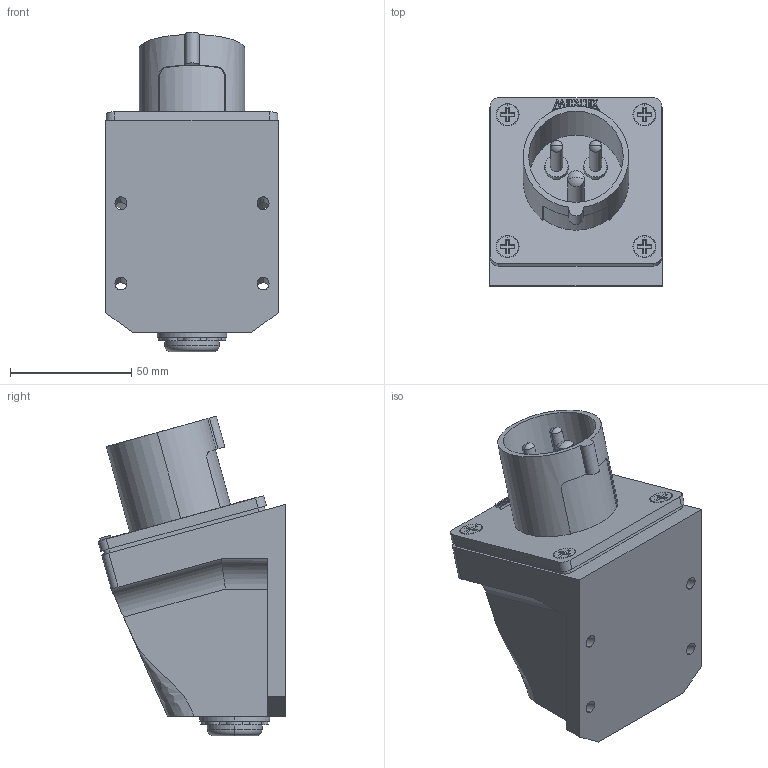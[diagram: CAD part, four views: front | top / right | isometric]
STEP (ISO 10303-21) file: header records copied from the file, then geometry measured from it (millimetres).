
FILE_DESCRIPTION (( 'STEP AP203' ), '1' );
FILE_NAME ('TLM16432.STEP', '2018-04-05T20:51:54', ( '' ), ( '' ), 'SwSTEP 2.0', 'SolidWorks 2012', '' );
FILE_SCHEMA (( 'CONFIG_CONTROL_DESIGN' ));
Length unit declared in the file: millimetre
Products named in the file (5): TLM16432; TLL16432; METALTEX 18,98; TL
Assembly tree (4 placements, depth 3):
  TLM16432
    TL
    TLL16432
      TLL16432
      METALTEX 18,98
Bounding box: 71 x 77.37 x 131.48 mm (x, y, z)
Volume: 320161.2 mm3; surface area: 65343.6 mm2
Topology: 9 solids, 9 shells, 541 faces, 1360 edges, 891 vertices
Faces by surface type: plane 322, cylinder 179, cone 26, sphere 6, torus 4, bspline 4
Entity records: 17969 total; most frequent: CARTESIAN_POINT 4191, DIRECTION 2769, ORIENTED_EDGE 2716, EDGE_CURVE 1358, AXIS2_PLACEMENT_3D 926, VECTOR 917, LINE 917, VERTEX_POINT 891
